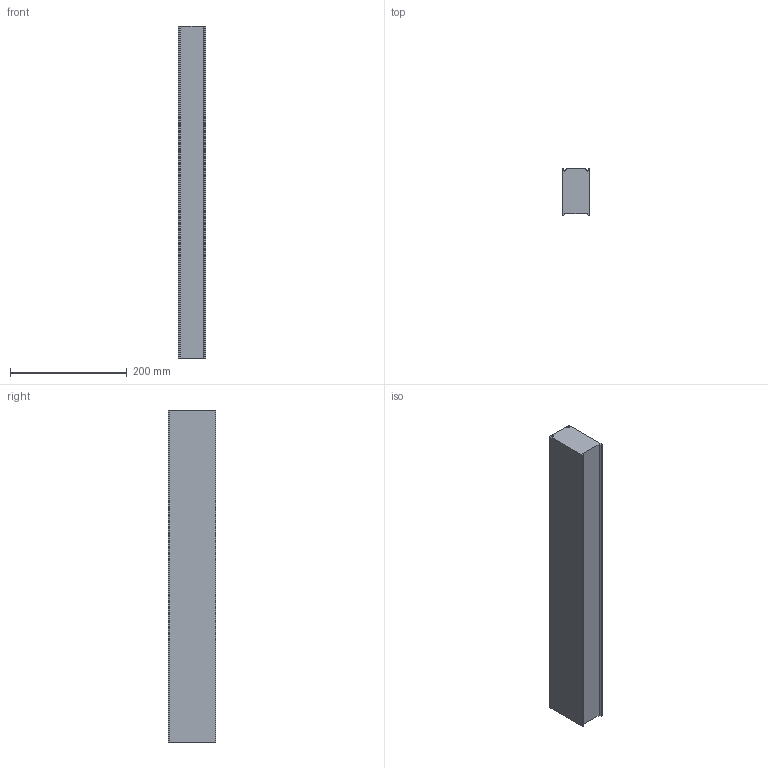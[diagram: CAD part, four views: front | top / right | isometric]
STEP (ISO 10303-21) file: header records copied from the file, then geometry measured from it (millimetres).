
FILE_DESCRIPTION (( 'STEP AP203' ), '1' );
FILE_NAME ('mLight_Swerve 47_L568 mm.STEP', '2020-04-01T00:03:34', ( '' ), ( '' ), 'SwSTEP 2.0', 'SolidWorks 2017', '' );
FILE_SCHEMA (( 'CONFIG_CONTROL_DESIGN' ));
Length unit declared in the file: millimetre
Products named in the file (1): mLight_Swerve 47_L568 mm
Bounding box: 47 x 80.63 x 568 mm (x, y, z)
Volume: 2047812.7 mm3; surface area: 164033.4 mm2
Topology: 1 solids, 1 shells, 46 faces, 132 edges, 88 vertices
Faces by surface type: cylinder 24, plane 22
Entity records: 1601 total; most frequent: DIRECTION 274, CARTESIAN_POINT 267, ORIENTED_EDGE 264, EDGE_CURVE 132, AXIS2_PLACEMENT_3D 95, VERTEX_POINT 88, VECTOR 84, LINE 84
